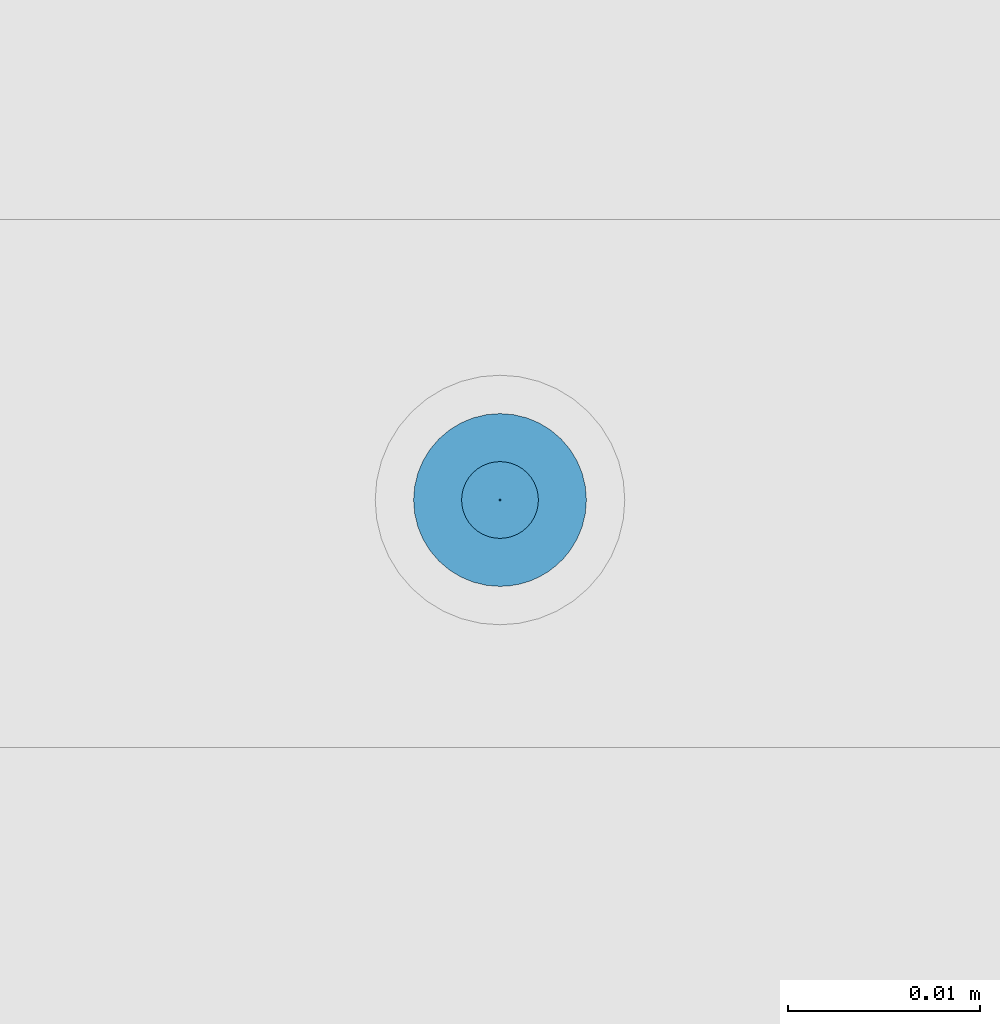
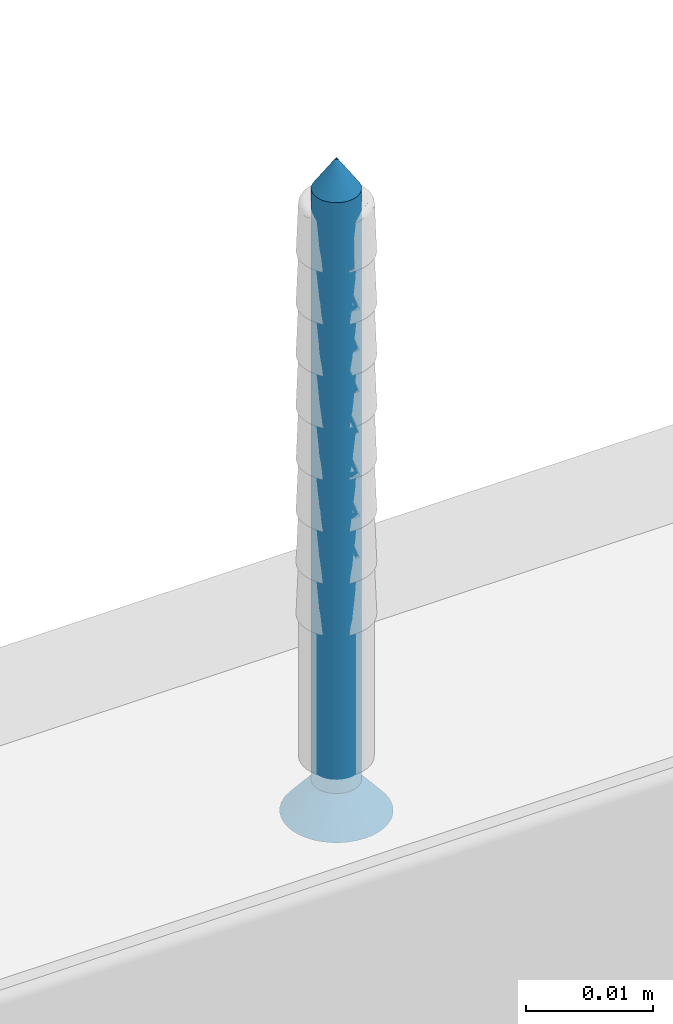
# One storey, part 39 of 79: 1 slab.
"""IFC2X3 building model written with IfcOpenShell, lengths in millimetres."""

import ifcopenshell
import ifcopenshell.guid

model = None  # the IFC model being written
_history = None  # IfcOwnerHistory: only IFC2X3 demands one
_inside = {}  # id of a spatial element -> (the spatial element, [elements in it])
_under = {}  # id of a project, library or spatial element -> (it, [spatial elements below it])
_declared = {}  # id of a project -> (the project, [libraries it declares])
_typed = {}  # id of a type object -> (the type object, [elements of that type])
_made_of = {}  # id of a material, layer set ... -> (it, [elements and type objects made of it])


def new_model(schema):
    """Start an empty IFC model of exactly this schema.

    Asked for "IFC4X3", IfcOpenShell would pick the latest addendum, in which some entities
    have other attributes; the version numbers below select the first issue.
    IFC2X3 requires an IfcOwnerHistory on every rooted entity: one is made here for all.
    """
    global model, _history
    if schema == "IFC4X3":
        model = ifcopenshell.file(schema_version=(4, 3, 0, 0))
    else:
        model = ifcopenshell.file(schema=schema)
    _inside.clear()
    _under.clear()
    _declared.clear()
    _typed.clear()
    _made_of.clear()
    _history = None
    if model.schema == "IFC2X3":
        org = make("IfcOrganization", Name="unknown")
        user = make(
            "IfcPersonAndOrganization",
            ThePerson=make("IfcPerson", FamilyName="unknown"),
            TheOrganization=org,
        )
        app = make(
            "IfcApplication",
            ApplicationDeveloper=org,
            Version="unknown",
            ApplicationFullName="unknown",
            ApplicationIdentifier="unknown",
        )
        _history = make(
            "IfcOwnerHistory",
            OwningUser=user,
            OwningApplication=app,
            ChangeAction="ADDED",
            CreationDate=0,
        )
    return model


def make(cls, **values):
    """One entity of the class cls with the attributes given. An attribute that is None is left unset."""
    return model.create_entity(
        cls, **{name: value for name, value in values.items() if value is not None}
    )


def entity(cls, *values):
    """Any entity or typed value of the class cls, its attributes in the order of the schema. None: left unset."""
    e = model.create_entity(cls)
    for i, value in enumerate(values):
        if value is not None:
            e[i] = value
    return e


def rooted(cls, **values):
    """An entity with a GlobalId (a new one), such as an element, a storey or a relation."""
    return make(cls, GlobalId=ifcopenshell.guid.new(), OwnerHistory=_history, **values)


def si_unit(unit_type, name, prefix=None):
    """IfcSIUnit, for example si_unit("LENGTHUNIT", "METRE", prefix="MILLI")."""
    return make("IfcSIUnit", UnitType=unit_type, Prefix=prefix, Name=name)


def converted_unit(unit_type, name, factor, base, dimensions=None, offset=None):
    """IfcConversionBasedUnit, such as the inch: factor (a typed value) times the base unit."""
    return make(
        "IfcConversionBasedUnit"
        if offset is None
        else "IfcConversionBasedUnitWithOffset",
        ConversionOffset=offset,
        Dimensions=None
        if dimensions is None
        else entity("IfcDimensionalExponents", *dimensions),
        UnitType=unit_type,
        Name=name,
        ConversionFactor=make(
            "IfcMeasureWithUnit", ValueComponent=factor, UnitComponent=base
        ),
    )


def assignment(units):
    """IfcUnitAssignment: the units of a project."""
    return None if units is None else make("IfcUnitAssignment", Units=units)


def point(xyz):
    """IfcCartesianPoint."""
    return None if xyz is None else make("IfcCartesianPoint", Coordinates=xyz)


def direction(xyz):
    """IfcDirection."""
    return None if xyz is None else make("IfcDirection", DirectionRatios=xyz)


def frame(location, z_axis=None, x_axis=None):
    """IfcAxis2Placement3D, a coordinate frame: its origin and axes. An axis left out is left unset."""
    return make(
        "IfcAxis2Placement3D",
        Location=point(location),
        Axis=direction(z_axis),
        RefDirection=direction(x_axis),
    )


def origin():
    """The frame at (0, 0, 0) with its axes left unset."""
    return frame((0.0, 0.0, 0.0))


def origin_with_axes():
    """The frame at (0, 0, 0) with the z axis (0, 0, 1) and the x axis (1, 0, 0) written out."""
    return frame((0.0, 0.0, 0.0), z_axis=(0.0, 0.0, 1.0), x_axis=(1.0, 0.0, 0.0))


def place(relative_to, where):
    """IfcLocalPlacement: puts the frame where relative to a parent placement (None: the world)."""
    return make(
        "IfcLocalPlacement", PlacementRelTo=relative_to, RelativePlacement=where
    )


def context(
    kind, dimensions, precision=None, world=None, true_north=None, identifier=None
):
    """IfcGeometricRepresentationContext, for example the 3D "Model" context."""
    return make(
        "IfcGeometricRepresentationContext",
        ContextIdentifier=identifier,
        ContextType=kind,
        CoordinateSpaceDimension=dimensions,
        Precision=precision,
        WorldCoordinateSystem=world,
        TrueNorth=true_north,
    )


def project(units=None, contexts=None):
    """IfcProject with its units and contexts."""
    return rooted(
        "IfcProject",
        Name="project",
        RepresentationContexts=contexts,
        UnitsInContext=assignment(units),
    )


def spatial(cls, under=None, at=None, **own):
    """A site, building, storey or space (cls), placed at a placement, below another one or the project."""
    s = rooted(cls, ObjectPlacement=at, **own)
    if under is not None:
        _under.setdefault(under.id(), (under, []))[1].append(s)
    return s


def faces_of(points, faces, orient=None, outer=None):
    """IfcFace entities. A face is a list of loops; a loop is a list of indices into points, from 0.

    orient and outer hold one flag for each loop. By default every Orientation is true, the
    first loop of a face is its IfcFaceOuterBound and the others are IfcFaceBound.
    """
    made = []
    for i, loops in enumerate(faces):
        bounds = []
        for j, loop in enumerate(loops):
            is_outer = j == 0 if outer is None else outer[i][j]
            bounds.append(
                make(
                    "IfcFaceOuterBound" if is_outer else "IfcFaceBound",
                    Bound=make("IfcPolyLoop", Polygon=[points[k] for k in loop]),
                    Orientation=True if orient is None else orient[i][j],
                )
            )
        made.append(make("IfcFace", Bounds=bounds))
    return made


def faceted_brep(points, faces, orient=None, outer=None, voids=None):
    """IfcFacetedBrep: a solid bounded by flat faces; with voids (closed shells), ...WithVoids."""
    shared = [point(p) for p in points]
    hull = make("IfcClosedShell", CfsFaces=faces_of(shared, faces, orient, outer))
    if voids is None:
        return make("IfcFacetedBrep", Outer=hull)
    return make(
        "IfcFacetedBrepWithVoids",
        Outer=hull,
        Voids=[
            make(cls, CfsFaces=faces_of(shared, fs, o, b)) for cls, fs, o, b in voids
        ],
    )


def shape(context_of_items, identifier, shape_type, items):
    """IfcShapeRepresentation: the items that make up one representation, for example the "Body"."""
    return make(
        "IfcShapeRepresentation",
        ContextOfItems=context_of_items,
        RepresentationIdentifier=identifier,
        RepresentationType=shape_type,
        Items=items,
    )


def made_of(thing, what):
    """Note that an element or type object is made of a material, layer set ...; save() writes the relation."""
    if what is not None:
        _made_of.setdefault(what.id(), (what, []))[1].append(thing)
    return thing


def element(
    cls,
    number,
    at=None,
    inside=None,
    cuts=None,
    type_object=None,
    material=None,
    context=None,
    identifier="Body",
    shape_type=None,
    held_by="IfcProductDefinitionShape",
    body=None,
    shapes=None,
    **own,
):
    """One element of the class cls, such as IfcWall. Its Tag is "e" and its number.

    at: its placement. inside: the storey or other place that contains it. cuts: it is an
    opening in that element (IfcRelVoidsElement). A single representation is given by context,
    identifier, shape_type and body (its items); several are given by shapes. held_by: the class
    of the entity that holds the representations. save() writes the other relations.
    """
    e = rooted(cls, Tag="e%d" % number, ObjectPlacement=at, **own)
    if body is not None:
        shapes = [shape(context, identifier, shape_type, body)]
    if shapes is not None:
        e.Representation = make(held_by, Representations=shapes)
    if inside is not None:
        _inside.setdefault(inside.id(), (inside, []))[1].append(e)
    if cuts is not None:
        rooted(
            "IfcRelVoidsElement", RelatingBuildingElement=cuts, RelatedOpeningElement=e
        )
    if type_object is not None:
        _typed.setdefault(type_object.id(), (type_object, []))[1].append(e)
    return made_of(e, material)


def aggregate(whole, parts):
    """IfcRelAggregates: a whole, such as a stair, and the parts it consists of."""
    return rooted("IfcRelAggregates", RelatingObject=whole, RelatedObjects=parts)


def save(model, path):
    """Write the relations noted so far, then the file.

    IfcRelAggregates (storeys below a building ...), IfcRelContainedInSpatialStructure (elements
    in a storey), IfcRelDefinesByType, IfcRelAssociatesMaterial and IfcRelDeclares: one each for
    every whole, place, type object, material and project.
    """
    for whole, parts in _under.values():
        aggregate(whole, parts)
    for where, things in _inside.values():
        rooted(
            "IfcRelContainedInSpatialStructure",
            RelatedElements=things,
            RelatingStructure=where,
        )
    for kind, things in _typed.values():
        rooted("IfcRelDefinesByType", RelatedObjects=things, RelatingType=kind)
    for what, things in _made_of.values():
        rooted("IfcRelAssociatesMaterial", RelatedObjects=things, RelatingMaterial=what)
    for by, libraries in _declared.values():
        rooted("IfcRelDeclares", RelatingContext=by, RelatedDefinitions=libraries)
    model.write(path)


model = new_model("IFC2X3")

# Units and contexts
model_context = context("Model", 3, precision=1e-05, world=origin(), true_north=direction((0.0, 1.0, 0.0)))
ifc_project = project(units=[si_unit("LENGTHUNIT", "METRE", prefix="MILLI"), si_unit("AREAUNIT", "SQUARE_METRE"), si_unit("VOLUMEUNIT", "CUBIC_METRE"), converted_unit("PLANEANGLEUNIT", "DEGREE", entity("IfcPlaneAngleMeasure", 0.01745), si_unit("PLANEANGLEUNIT", "RADIAN"), dimensions=[0, 0, 0, 0, 0, 0, 0]), si_unit("SOLIDANGLEUNIT", "STERADIAN"), si_unit("MASSUNIT", "GRAM"), si_unit("TIMEUNIT", "SECOND"), si_unit("THERMODYNAMICTEMPERATUREUNIT", "DEGREE_CELSIUS"), si_unit("LUMINOUSINTENSITYUNIT", "LUMEN")], contexts=[model_context])

# Site, building, storey
site_placement = place(None, origin_with_axes())
site = spatial("IfcSite", under=ifc_project, at=site_placement, Name="Default Site", CompositionType="ELEMENT")
building_placement = place(site_placement, origin_with_axes())
building = spatial("IfcBuilding", under=site, at=building_placement, Name="Default Building", CompositionType="ELEMENT")
storey_placement = place(building_placement, origin_with_axes())
storey = spatial("IfcBuildingStorey", under=building, at=storey_placement, Name="Default Building Storey", CompositionType="ELEMENT", Elevation=0.0)

# Slab
slab_placement = place(storey_placement, frame((1009.755928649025, 5660.599858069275, 1375.213337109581), z_axis=(-7.620176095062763e-14, -6.858158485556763e-13, -1.0), x_axis=(-1.0, -9.714451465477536e-17, 7.620176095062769e-14)))
element("IfcSlab", 1, at=slab_placement, inside=storey, Name="Stalowy element mocujący", context=model_context, shape_type="Brep", body=[
    faceted_brep([(-1438.31414949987, -3453.283223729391, -0.4642567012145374), (-1435.814149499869, -3453.283223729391, -3.464256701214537), (-1435.78952618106, -3452.97035479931, -3.464256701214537), (-1438.258747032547, -3452.57926863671, -0.4642567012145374), (-1435.71626253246, -3452.665189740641, -3.464256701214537), (-1438.093903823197, -3451.892647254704, -0.4642567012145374), (-1435.596162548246, -3452.375242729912, -3.464256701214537), (-1437.823678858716, -3451.240266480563, -0.4642567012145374), (-1435.432183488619, -3452.107653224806, -3.464256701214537), (-1437.454725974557, -3450.638190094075, -0.4642567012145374), (-1435.228363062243, -3451.869010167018, -3.464256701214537), (-1436.996130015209, -3450.101243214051, -0.4642567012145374), (-1434.989720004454, -3451.665189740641, -3.464256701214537), (-1436.459183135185, -3449.642647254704, -0.4642567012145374), (-1434.722130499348, -3451.501210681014, -3.464256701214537), (-1435.857106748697, -3449.273694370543, -0.4642567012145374), (-1434.432183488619, -3451.381110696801, -3.464256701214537), (-1435.204725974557, -3449.003469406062, -0.4642567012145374), (-1434.12701842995, -3451.307847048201, -3.464256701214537), (-1434.51810459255, -3448.838626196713, -0.4642567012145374), (-1433.814149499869, -3451.283223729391, -3.464256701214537), (-1433.814149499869, -3448.783223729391, -0.4642567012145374), (-1433.501280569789, -3451.307847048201, -3.464256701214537), (-1433.110194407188, -3448.838626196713, -0.4642567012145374), (-1433.19611551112, -3451.381110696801, -3.464256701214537), (-1432.423573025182, -3449.003469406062, -0.4642567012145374), (-1432.906168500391, -3451.501210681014, -3.464256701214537), (-1431.771192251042, -3449.273694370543, -0.4642567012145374), (-1432.638578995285, -3451.665189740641, -3.464256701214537), (-1431.169115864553, -3449.642647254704, -0.4642567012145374), (-1432.399935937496, -3451.869010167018, -3.464256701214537), (-1430.63216898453, -3450.101243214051, -0.4642567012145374), (-1432.196115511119, -3452.107653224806, -3.464256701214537), (-1430.173573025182, -3450.638190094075, -0.4642567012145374), (-1432.032136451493, -3452.375242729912, -3.464256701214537), (-1429.804620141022, -3451.240266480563, -0.4642567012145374), (-1431.912036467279, -3452.665189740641, -3.464256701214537), (-1429.534395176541, -3451.892647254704, -0.4642567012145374), (-1431.838772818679, -3453.596092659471, -3.464256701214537), (-1429.369551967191, -3453.987178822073, -0.4642567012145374), (-1429.314149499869, -3453.283223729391, -0.4642567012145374), (-1431.81414949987, -3453.283223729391, -3.464256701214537), (-1429.369551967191, -3452.57926863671, -0.4642567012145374), (-1431.838772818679, -3452.97035479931, -3.464256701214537), (-1431.912036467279, -3453.901257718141, -3.464256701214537), (-1429.534395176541, -3454.673800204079, -0.4642567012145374), (-1432.032136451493, -3454.19120472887, -3.464256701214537), (-1429.804620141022, -3455.326180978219, -0.4642567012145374), (-1432.196115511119, -3454.458794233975, -3.464256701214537), (-1430.173573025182, -3455.928257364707, -0.4642567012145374), (-1432.399935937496, -3454.697437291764, -3.464256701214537), (-1430.63216898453, -3456.465204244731, -0.4642567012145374), (-1432.638578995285, -3454.901257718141, -3.464256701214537), (-1431.169115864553, -3456.923800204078, -0.4642567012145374), (-1432.906168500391, -3455.065236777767, -3.464256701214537), (-1431.771192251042, -3457.292753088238, -0.4642567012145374), (-1433.19611551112, -3455.185336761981, -3.464256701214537), (-1432.423573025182, -3457.562978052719, -0.4642567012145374), (-1433.501280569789, -3455.258600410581, -3.464256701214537), (-1433.110194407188, -3457.727821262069, -0.4642567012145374), (-1433.814149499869, -3455.283223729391, -3.464256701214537), (-1433.814149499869, -3457.783223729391, -0.4642567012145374), (-1434.34306778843, -3457.752031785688, -0.4642567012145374), (-1434.12701842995, -3455.258600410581, -3.464256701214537), (-1434.432183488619, -3455.185336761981, -3.464256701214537), (-1434.864653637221, -3457.658888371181, -0.4642567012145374), (-1435.371676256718, -3457.505084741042, -0.4642567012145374), (-1434.722130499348, -3455.065236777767, -3.464256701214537), (-1435.857106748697, -3457.292753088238, -0.4642567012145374), (-1434.989720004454, -3454.901257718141, -3.464256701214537), (-1435.228363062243, -3454.697437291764, -3.464256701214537), (-1436.314215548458, -3457.024836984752, -0.4642567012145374), (-1436.736665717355, -3456.705050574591, -0.4642567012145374), (-1437.11860079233, -3456.337827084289, -0.4642567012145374), (-1437.454725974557, -3455.928257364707, -0.4642567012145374), (-1435.432183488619, -3454.458794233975, -3.464256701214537), (-1435.596162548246, -3454.19120472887, -3.464256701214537), (-1437.823678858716, -3455.326180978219, -0.4642567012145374), (-1435.71626253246, -3453.901257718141, -3.464256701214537), (-1438.093903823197, -3454.673800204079, -0.4642567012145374), (-1435.78952618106, -3453.596092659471, -3.464256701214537), (-1438.258747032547, -3453.987178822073, -0.4642567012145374), (-1434.205235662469, -3455.752444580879, 0.2007375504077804), (-1433.814149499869, -3455.78322372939, 0.2007375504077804), (-1434.586691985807, -3455.660865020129, 0.2007375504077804), (-1434.949125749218, -3455.510740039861, 0.2007375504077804), (-1435.283612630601, -3455.305766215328, 0.2007375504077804), (-1435.581916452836, -3455.050990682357, 0.2007375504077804), (-1435.836691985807, -3454.752686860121, 0.2007375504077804), (-1436.04166581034, -3454.41819997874, 0.2007375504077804), (-1436.191790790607, -3454.055766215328, 0.2007375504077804), (-1436.283370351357, -3453.674309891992, 0.2007375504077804), (-1436.314149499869, -3453.283223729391, 0.2007375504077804), (-1436.283370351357, -3452.892137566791, 0.2007375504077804), (-1436.191790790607, -3452.510681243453, 0.2007375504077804), (-1436.04166581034, -3452.148247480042, 0.2007375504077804), (-1435.836691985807, -3451.81376059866, 0.200737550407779), (-1435.581916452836, -3451.515456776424, 0.2007375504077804), (-1435.283612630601, -3451.260681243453, 0.2007375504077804), (-1434.949125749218, -3451.05570741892, 0.2007375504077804), (-1434.586691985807, -3450.905582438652, 0.2007375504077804), (-1433.423063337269, -3450.814002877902, 0.2007375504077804), (-1433.814149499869, -3450.783223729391, 0.2007375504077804), (-1434.205235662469, -3450.814002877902, 0.2007375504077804), (-1433.041607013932, -3450.905582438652, 0.2007375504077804), (-1432.67917325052, -3451.05570741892, 0.2007375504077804), (-1432.344686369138, -3451.260681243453, 0.2007375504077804), (-1432.046382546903, -3451.515456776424, 0.2007375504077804), (-1431.791607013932, -3451.81376059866, 0.2007375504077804), (-1431.586633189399, -3452.148247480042, 0.2007375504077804), (-1431.436508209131, -3452.510681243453, 0.2007375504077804), (-1431.344928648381, -3452.892137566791, 0.2007375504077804), (-1431.314149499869, -3453.283223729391, 0.2007375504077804), (-1431.344928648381, -3453.674309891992, 0.2007375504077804), (-1431.436508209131, -3454.055766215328, 0.2007375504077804), (-1431.586633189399, -3454.41819997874, 0.2007375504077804), (-1431.791607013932, -3454.752686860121, 0.2007375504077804), (-1432.046382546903, -3455.050990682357, 0.2007375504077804), (-1432.344686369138, -3455.305766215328, 0.2007375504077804), (-1432.67917325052, -3455.510740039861, 0.2007375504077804), (-1433.041607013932, -3455.660865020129, 0.2007375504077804), (-1433.423063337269, -3455.752444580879, 0.2007375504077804), (-1433.814149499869, -3453.283223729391, -63.46425670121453), (-1435.789526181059, -3452.97035479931, -60.46425670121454), (-1435.814149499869, -3453.283223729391, -60.46425670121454), (-1435.716262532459, -3452.665189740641, -60.46425670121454), (-1435.596162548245, -3452.375242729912, -60.46425670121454), (-1435.432183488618, -3452.107653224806, -60.46425670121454), (-1435.228363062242, -3451.869010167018, -60.46425670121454), (-1434.989720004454, -3451.665189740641, -60.46425670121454), (-1434.722130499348, -3451.501210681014, -60.46425670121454), (-1434.432183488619, -3451.381110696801, -60.46425670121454), (-1434.127018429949, -3451.307847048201, -60.46425670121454), (-1433.814149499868, -3451.283223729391, -60.46425670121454), (-1433.501280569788, -3451.307847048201, -60.46425670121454), (-1433.196115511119, -3451.381110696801, -60.46425670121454), (-1432.90616850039, -3451.501210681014, -60.46425670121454), (-1432.638578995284, -3451.665189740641, -60.46425670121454), (-1432.399935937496, -3451.869010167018, -60.46425670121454), (-1432.196115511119, -3452.107653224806, -60.46425670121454), (-1432.032136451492, -3452.375242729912, -60.46425670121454), (-1431.912036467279, -3452.665189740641, -60.46425670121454), (-1431.838772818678, -3452.97035479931, -60.46425670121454), (-1431.814149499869, -3453.283223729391, -60.46425670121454), (-1431.838772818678, -3453.596092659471, -60.46425670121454), (-1431.912036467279, -3453.901257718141, -60.46425670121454), (-1432.032136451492, -3454.19120472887, -60.46425670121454), (-1432.196115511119, -3454.458794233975, -60.46425670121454), (-1432.399935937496, -3454.697437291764, -60.46425670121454), (-1432.638578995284, -3454.901257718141, -60.46425670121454), (-1432.90616850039, -3455.065236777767, -60.46425670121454), (-1433.196115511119, -3455.185336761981, -60.46425670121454), (-1433.501280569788, -3455.258600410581, -60.46425670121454), (-1433.814149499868, -3455.283223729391, -60.46425670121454), (-1434.127018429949, -3455.258600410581, -60.46425670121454), (-1434.432183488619, -3455.185336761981, -60.46425670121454), (-1434.722130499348, -3455.065236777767, -60.46425670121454), (-1434.989720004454, -3454.901257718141, -60.46425670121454), (-1435.228363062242, -3454.697437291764, -60.46425670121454), (-1435.432183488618, -3454.458794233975, -60.46425670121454), (-1435.596162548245, -3454.19120472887, -60.46425670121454), (-1435.716262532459, -3453.901257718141, -60.46425670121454), (-1435.789526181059, -3453.596092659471, -60.46425670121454), (-1435.814149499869, -3453.783223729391, 0.04999999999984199), (-1436.04166581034, -3454.41819997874, 0.04999999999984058), (-1436.191790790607, -3454.055766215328, 0.04999999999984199), (-1435.814149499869, -3452.783223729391, 0.04999999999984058), (-1434.314149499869, -3453.783223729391, 0.04999999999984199), (-1434.314149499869, -3455.28322372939, 0.04999999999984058), (-1433.314149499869, -3455.28322372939, 0.04999999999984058), (-1433.314149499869, -3453.783223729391, 0.04999999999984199), (-1431.814149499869, -3453.783223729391, 0.04999999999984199), (-1431.814149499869, -3452.783223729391, 0.04999999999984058), (-1433.314149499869, -3452.783223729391, 0.04999999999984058), (-1433.314149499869, -3451.283223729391, 0.04999999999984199), (-1434.314149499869, -3451.283223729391, 0.04999999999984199), (-1434.314149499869, -3452.783223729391, 0.04999999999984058), (-1436.283370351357, -3453.674309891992, 0.04999999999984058), (-1436.314149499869, -3453.283223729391, 0.04999999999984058), (-1436.283370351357, -3452.892137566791, 0.04999999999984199), (-1436.191790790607, -3452.510681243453, 0.04999999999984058), (-1436.04166581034, -3452.148247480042, 0.04999999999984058), (-1435.836691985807, -3451.81376059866, 0.04999999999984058), (-1435.581916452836, -3451.515456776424, 0.04999999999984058), (-1435.283612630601, -3451.260681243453, 0.04999999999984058), (-1434.949125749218, -3451.05570741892, 0.04999999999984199), (-1434.586691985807, -3450.905582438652, 0.04999999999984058), (-1434.205235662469, -3450.814002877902, 0.04999999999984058), (-1433.814149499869, -3450.783223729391, 0.04999999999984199), (-1433.423063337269, -3450.814002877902, 0.04999999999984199), (-1433.041607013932, -3450.905582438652, 0.04999999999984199), (-1432.67917325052, -3451.05570741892, 0.04999999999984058), (-1432.344686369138, -3451.260681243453, 0.04999999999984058), (-1432.046382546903, -3451.515456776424, 0.04999999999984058), (-1431.791607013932, -3451.81376059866, 0.04999999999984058), (-1431.586633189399, -3452.148247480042, 0.04999999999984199), (-1431.436508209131, -3452.510681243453, 0.04999999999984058), (-1431.344928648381, -3452.892137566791, 0.04999999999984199), (-1431.314149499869, -3453.283223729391, 0.04999999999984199), (-1431.344928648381, -3453.674309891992, 0.04999999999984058), (-1431.436508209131, -3454.055766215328, 0.04999999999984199), (-1431.586633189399, -3454.41819997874, 0.04999999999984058), (-1431.791607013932, -3454.752686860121, 0.04999999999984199), (-1432.046382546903, -3455.050990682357, 0.04999999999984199), (-1432.344686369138, -3455.305766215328, 0.04999999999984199), (-1432.67917325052, -3455.510740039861, 0.04999999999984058), (-1433.041607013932, -3455.660865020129, 0.04999999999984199), (-1433.423063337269, -3455.752444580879, 0.04999999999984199), (-1433.814149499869, -3455.78322372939, 0.04999999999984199), (-1434.205235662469, -3455.752444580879, 0.04999999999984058), (-1434.586691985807, -3455.660865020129, 0.04999999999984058), (-1434.949125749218, -3455.510740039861, 0.04999999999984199), (-1435.283612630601, -3455.305766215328, 0.04999999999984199), (-1435.581916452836, -3455.050990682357, 0.04999999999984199), (-1435.836691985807, -3454.752686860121, 0.04999999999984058), (-1434.314149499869, -3452.783223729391, -1.79926244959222), (-1434.314149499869, -3451.283223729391, -1.799262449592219), (-1433.314149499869, -3451.283223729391, -1.799262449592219), (-1433.314149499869, -3452.783223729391, -1.79926244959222), (-1431.81414949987, -3452.783223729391, -1.79926244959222), (-1431.81414949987, -3453.783223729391, -1.799262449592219), (-1433.314149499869, -3453.783223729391, -1.799262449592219), (-1433.314149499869, -3455.28322372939, -1.79926244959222), (-1434.314149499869, -3455.28322372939, -1.79926244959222), (-1434.314149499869, -3453.783223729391, -1.799262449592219), (-1435.814149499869, -3453.783223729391, -1.799262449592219), (-1435.814149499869, -3452.783223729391, -1.79926244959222)], [[[0, 1, 2, 3]], [[4, 5, 3, 2]], [[6, 7, 5, 4]], [[7, 6, 8, 9]], [[10, 11, 9, 8]], [[11, 10, 12, 13]], [[14, 15, 13, 12]], [[16, 17, 15, 14]], [[17, 16, 18, 19]], [[20, 21, 19, 18]], [[21, 20, 22, 23]], [[24, 25, 23, 22]], [[26, 27, 25, 24]], [[27, 26, 28, 29]], [[30, 31, 29, 28]], [[31, 30, 32, 33]], [[34, 35, 33, 32]], [[36, 37, 35, 34]], [[38, 39, 40, 41]], [[41, 40, 42, 43]], [[37, 36, 43, 42]], [[44, 45, 39, 38]], [[46, 47, 45, 44]], [[47, 46, 48, 49]], [[50, 51, 49, 48]], [[51, 50, 52, 53]], [[54, 55, 53, 52]], [[56, 57, 55, 54]], [[57, 56, 58, 59]], [[60, 61, 59, 58]], [[62, 61, 63]], [[61, 60, 63]], [[63, 64, 62]], [[64, 65, 62]], [[66, 65, 64]], [[64, 67, 66]], [[67, 68, 66]], [[69, 70, 71]], [[70, 72, 71]], [[71, 68, 69]], [[68, 67, 69]], [[70, 73, 72]], [[74, 73, 75]], [[73, 70, 75]], [[76, 77, 74, 75]], [[78, 79, 77, 76]], [[79, 78, 80, 81]], [[1, 0, 81, 80]], [[82, 83, 62]], [[83, 61, 62]], [[62, 65, 82]], [[65, 84, 82]], [[66, 68, 84]], [[68, 85, 84]], [[84, 65, 66]], [[86, 85, 71]], [[85, 68, 71]], [[72, 73, 87]], [[87, 86, 72]], [[86, 71, 72]], [[88, 87, 74]], [[87, 73, 74]], [[77, 89, 88, 74]], [[79, 90, 89, 77]], [[90, 79, 81, 91]], [[0, 92, 91, 81]], [[92, 0, 3, 93]], [[5, 94, 93, 3]], [[7, 95, 94, 5]], [[95, 7, 9, 96]], [[11, 97, 96, 9]], [[97, 11, 13, 98]], [[15, 99, 98, 13]], [[17, 100, 99, 15]], [[23, 101, 102, 21]], [[21, 102, 103, 19]], [[100, 17, 19, 103]], [[25, 104, 101, 23]], [[27, 105, 104, 25]], [[105, 27, 29, 106]], [[31, 107, 106, 29]], [[107, 31, 33, 108]], [[35, 109, 108, 33]], [[37, 110, 109, 35]], [[110, 37, 42, 111]], [[40, 112, 111, 42]], [[112, 40, 39, 113]], [[45, 114, 113, 39]], [[47, 115, 114, 45]], [[115, 47, 49, 116]], [[51, 117, 116, 49]], [[117, 51, 53, 118]], [[55, 119, 118, 53]], [[57, 120, 119, 55]], [[120, 57, 59, 121]], [[61, 83, 121, 59]], [[122, 123, 124]], [[122, 125, 123]], [[122, 126, 125]], [[127, 126, 122]], [[122, 128, 127]], [[129, 128, 122]], [[122, 130, 129]], [[122, 131, 130]], [[132, 131, 122]], [[122, 133, 132]], [[134, 133, 122]], [[122, 135, 134]], [[122, 136, 135]], [[137, 136, 122]], [[122, 138, 137]], [[139, 138, 122]], [[122, 140, 139]], [[122, 141, 140]], [[142, 141, 122]], [[122, 143, 142]], [[144, 143, 122]], [[122, 145, 144]], [[122, 146, 145]], [[147, 146, 122]], [[122, 148, 147]], [[149, 148, 122]], [[122, 150, 149]], [[122, 151, 150]], [[152, 151, 122]], [[122, 153, 152]], [[154, 153, 122]], [[122, 155, 154]], [[122, 156, 155]], [[157, 156, 122]], [[122, 158, 157]], [[159, 158, 122]], [[122, 160, 159]], [[122, 161, 160]], [[162, 161, 122]], [[124, 162, 122]], [[1, 124, 123, 2]], [[125, 4, 2, 123]], [[126, 6, 4, 125]], [[6, 126, 127, 8]], [[128, 10, 8, 127]], [[10, 128, 129, 12]], [[130, 14, 12, 129]], [[131, 16, 14, 130]], [[16, 131, 132, 18]], [[133, 20, 18, 132]], [[20, 133, 134, 22]], [[135, 24, 22, 134]], [[136, 26, 24, 135]], [[26, 136, 137, 28]], [[138, 30, 28, 137]], [[30, 138, 139, 32]], [[140, 34, 32, 139]], [[141, 36, 34, 140]], [[144, 38, 41, 143]], [[143, 41, 43, 142]], [[36, 141, 142, 43]], [[145, 44, 38, 144]], [[146, 46, 44, 145]], [[46, 146, 147, 48]], [[148, 50, 48, 147]], [[50, 148, 149, 52]], [[150, 54, 52, 149]], [[151, 56, 54, 150]], [[56, 151, 152, 58]], [[153, 60, 58, 152]], [[60, 153, 154, 63]], [[155, 64, 63, 154]], [[156, 67, 64, 155]], [[67, 156, 157, 69]], [[158, 70, 69, 157]], [[70, 158, 159, 75]], [[160, 76, 75, 159]], [[161, 78, 76, 160]], [[78, 161, 162, 80]], [[124, 1, 80, 162]], [[163, 164, 165, 166]], [[163, 167, 168, 169, 170, 171, 172, 173, 174, 175, 176, 166, 165, 177, 178, 179, 180, 181, 182, 183, 184, 185, 186, 187, 188, 189, 190, 191, 192, 193, 194, 195, 196, 197, 198, 199, 200, 201, 202, 203, 204, 205, 206, 207, 208, 209, 210, 211, 212, 213, 214, 164]], [[199, 198, 112, 113]], [[113, 114, 200, 199]], [[114, 115, 201, 200]], [[202, 201, 115, 116]], [[116, 117, 203, 202]], [[204, 203, 117, 118]], [[118, 119, 205, 204]], [[119, 120, 206, 205]], [[207, 206, 120, 121]], [[121, 83, 208, 207]], [[209, 208, 83, 82]], [[82, 84, 210, 209]], [[84, 85, 211, 210]], [[212, 211, 85, 86]], [[86, 87, 213, 212]], [[214, 213, 87, 88]], [[88, 89, 164, 214]], [[89, 90, 165, 164]], [[92, 93, 179, 178]], [[91, 92, 178, 177]], [[177, 165, 90, 91]], [[93, 94, 180, 179]], [[94, 95, 181, 180]], [[182, 181, 95, 96]], [[96, 97, 183, 182]], [[184, 183, 97, 98]], [[98, 99, 185, 184]], [[99, 100, 186, 185]], [[187, 186, 100, 103]], [[103, 102, 188, 187]], [[189, 188, 102, 101]], [[101, 104, 190, 189]], [[104, 105, 191, 190]], [[192, 191, 105, 106]], [[106, 107, 193, 192]], [[194, 193, 107, 108]], [[108, 109, 195, 194]], [[109, 110, 196, 195]], [[197, 196, 110, 111]], [[111, 112, 198, 197]], [[215, 216, 217, 218, 219, 220, 221, 222, 223, 224, 225, 226]], [[216, 175, 174, 217]], [[215, 176, 175, 216]], [[226, 166, 176, 215]], [[225, 163, 166, 226]], [[224, 167, 163, 225]], [[223, 168, 167, 224]], [[222, 169, 168, 223]], [[221, 170, 169, 222]], [[220, 171, 170, 221]], [[219, 172, 171, 220]], [[218, 173, 172, 219]], [[217, 174, 173, 218]]]),
])

save(model, "model.ifc")
